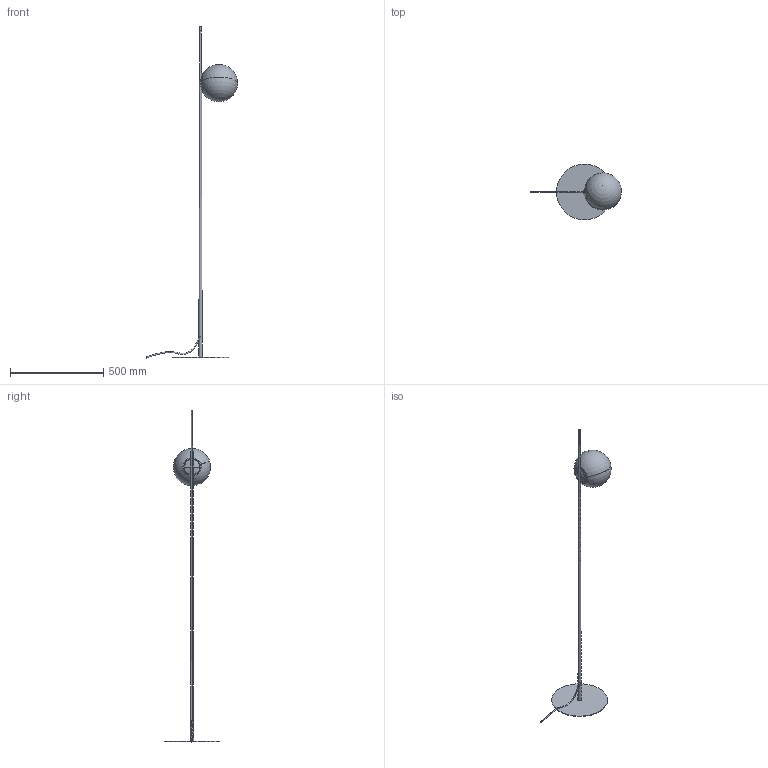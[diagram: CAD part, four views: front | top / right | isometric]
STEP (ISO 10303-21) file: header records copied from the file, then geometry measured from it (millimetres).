
FILE_DESCRIPTION (( 'STEP AP203' ), '1' );
FILE_NAME ('HP302CBEXT.step', '2023-02-16T13:58:58', ( '' ), ( '' ), 'SwSTEP 2.0', 'SolidWorks 2019', '' );
FILE_SCHEMA (( 'CONFIG_CONTROL_DESIGN' ));
Length unit declared in the file: millimetre
Products named in the file (8): PR23MU02-G; PR23MU02-D2; PR23MU02-E; PR23MU02-B2; PR23MU02-F; HP302CBEXT; PR23MU02-L5; Copia di cavo^HP302CBEXT
Assembly tree (7 placements, depth 2):
  HP302CBEXT
    PR23MU02-B2
    PR23MU02-L5
    PR23MU02-D2
    PR23MU02-E
    PR23MU02-F
    PR23MU02-G
    Copia di cavo^HP302CBEXT
Bounding box: 488.79 x 300 x 1780.14 mm (x, y, z)
Volume: 599383.3 mm3; surface area: 552297.7 mm2
Topology: 7 solids, 7 shells, 95 faces, 258 edges, 168 vertices
Faces by surface type: cylinder 38, plane 23, cone 12, sphere 8, torus 8, bspline 6
Entity records: 6701 total; most frequent: CARTESIAN_POINT 3685, ORIENTED_EDGE 488, DIRECTION 429, EDGE_CURVE 244, AXIS2_PLACEMENT_3D 177, VERTEX_POINT 160, EDGE_LOOP 106, ADVANCED_FACE 95
